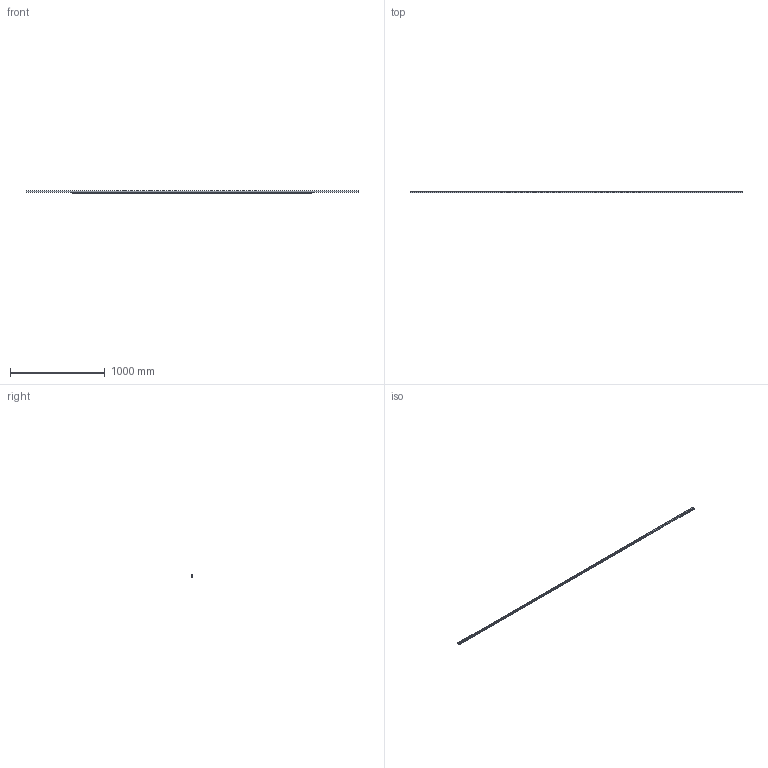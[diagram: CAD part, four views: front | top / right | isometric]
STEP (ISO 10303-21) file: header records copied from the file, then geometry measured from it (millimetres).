
FILE_DESCRIPTION( ( '' ), '1' );
FILE_NAME( 'C:/Documents and Settings/Nikhil/Desktop/Nik/Done/9113498.stp', '2013-10-23T07:56:56', ( '' ), ( '' ), ' ', ' ', ' ' );
FILE_SCHEMA( ( 'automotive_design' ) );
Length unit declared in the file: millimetre
Products named in the file (1): 1
Bounding box: 3500 x 20 x 25 mm (x, y, z)
Volume: 493714.6 mm3; surface area: 359746.8 mm2
Topology: 1 solids, 1 shells, 37 faces, 104 edges, 70 vertices
Faces by surface type: plane 27, cylinder 10
Entity records: 2438 total; most frequent: CARTESIAN_POINT 260, STYLED_ITEM 212, PRESENTATION_STYLE_ASSIGNMENT 212, COLOUR_RGB 212, DIRECTION 210, ORIENTED_EDGE 208, EDGE_CURVE 104, CURVE_STYLE 104
